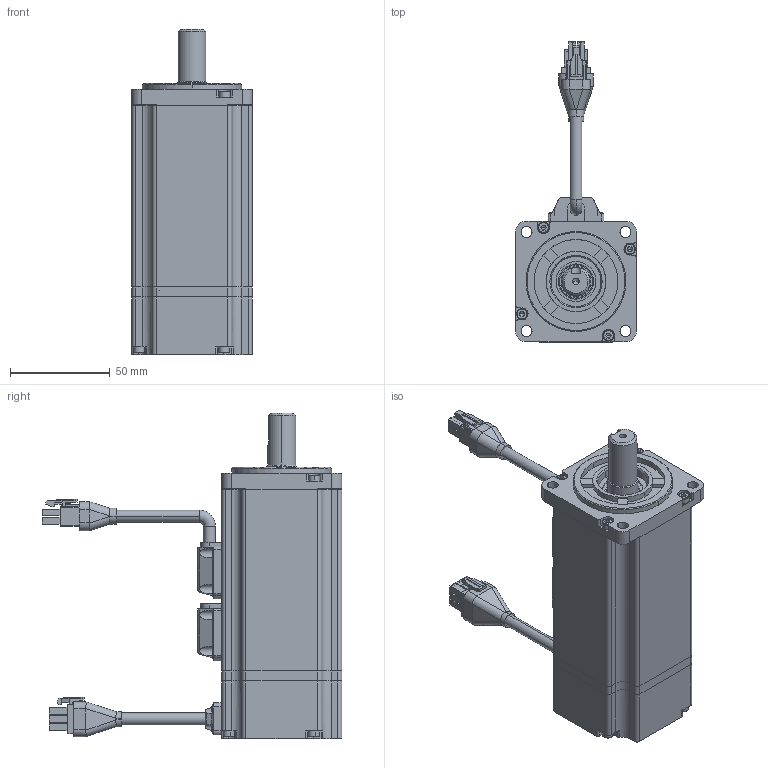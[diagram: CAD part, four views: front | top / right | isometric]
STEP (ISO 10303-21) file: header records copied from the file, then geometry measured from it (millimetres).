
FILE_DESCRIPTION (( 'STEP AP203' ), '1' );
FILE_NAME ('R60-400.STEP', '2019-08-23T05:40:49', ( '1' ), ( 'MideaGroup IT' ), 'SwSTEP 2.0', 'SolidWorks 2012', '' );
FILE_SCHEMA (( 'CONFIG_CONTROL_DESIGN' ));
Length unit declared in the file: millimetre
Products named in the file (26): 晤鎢ん盄傷赽; 晤鎢ん盄揤裔躇猾; 晤鎢ん盄揤裔; 蛌赽郪璃-001; 6003; 6003_qiu; 6003_bq; 6003_nh; 6003_wq; 萇儂粣-001; 綴裔-001; 綴傷裔-001; ヶ傷裔-001; 儂褲-001; R60-400; 雄薯盄揤裔郪璃; M3X28_GB_FASTENER_SCREWS_HSHCS M3X25-C; 雄薯盄傷赽裔; 雄薯盄; 雄薯盄傷赽; 雄薯盄躇猾菜; 雄薯盄揤裔; 毀嚏盄揤裔郪璃; 毀嚏盄傷赽揤裔; M2.5X5_GB_CROSS_SCREWS_TYPE3 M2.5X8-8-N
Assembly tree (56 placements, depth 4):
  R60-400
    儂褲-001
    ヶ傷裔-001
    綴傷裔-001
    綴裔-001
    蛌赽郪璃-001
      萇儂粣-001
      6003
        6003_wq
        6003_nh
        6003_bq
        6003_qiu  x11
    毀嚏盄揤裔郪璃
      晤鎢ん盄揤裔
      晤鎢ん盄揤裔躇猾
      晤鎢ん盄傷赽
      M2.5X5_GB_CROSS_SCREWS_TYPE3 M2.5X8-8-N  x4
      毀嚏盄傷赽揤裔
    雄薯盄揤裔郪璃
      雄薯盄揤裔
      雄薯盄躇猾菜
      雄薯盄傷赽
      雄薯盄
      M2.5X5_GB_CROSS_SCREWS_TYPE3 M2.5X8-8-N  x4
      雄薯盄傷赽裔
    M3X28_GB_FASTENER_SCREWS_HSHCS M3X25-C  x8
    雄薯盄揤裔郪璃
      雄薯盄揤裔
      雄薯盄躇猾菜
      雄薯盄
      M2.5X5_GB_CROSS_SCREWS_TYPE3 M2.5X8-8-N  x4
Bounding box: 60.2 x 150 x 163 mm (x, y, z)
Volume: 161838.7 mm3; surface area: 113942.5 mm2
Topology: 56 solids, 82 shells, 1826 faces, 4948 edges, 3266 vertices
Faces by surface type: plane 904, cylinder 709, cone 89, torus 56, sphere 46, bspline 22
Entity records: 46612 total; most frequent: CARTESIAN_POINT 11906, DIRECTION 6602, ORIENTED_EDGE 6269, EDGE_CURVE 3315, AXIS2_PLACEMENT_3D 2338, VERTEX_POINT 2206, LINE 1926, VECTOR 1926
